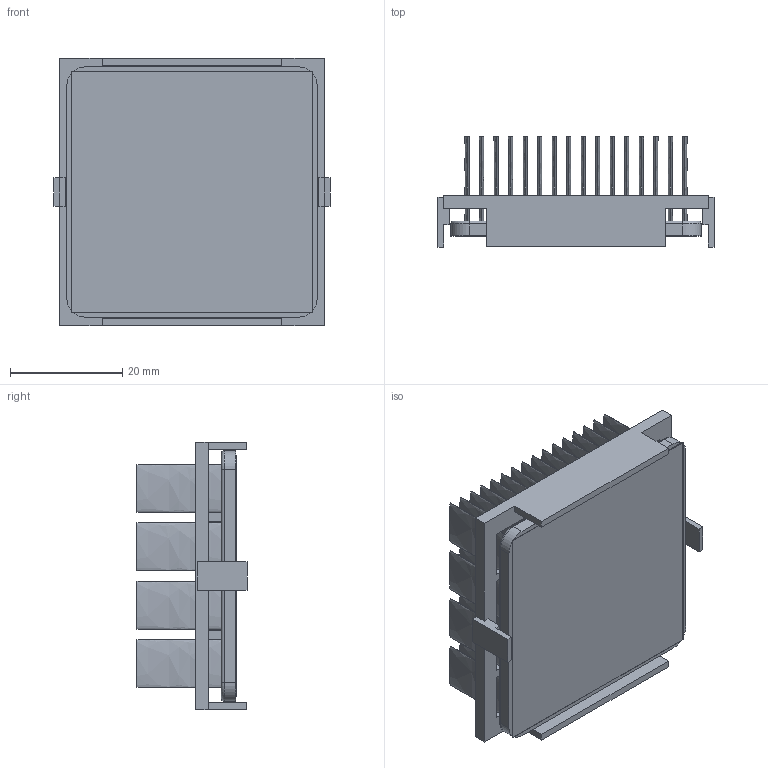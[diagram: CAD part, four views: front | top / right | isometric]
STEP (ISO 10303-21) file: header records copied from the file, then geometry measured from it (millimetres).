
FILE_DESCRIPTION (( 'STEP AP214' ), '1' );
FILE_NAME ('INM45001-18W-2.6BU.STEP', '2023-02-28T00:40:55', ( '' ), ( '' ), 'SwSTEP 2.0', 'SolidWorks 2020', '' );
FILE_SCHEMA (( 'AUTOMOTIVE_DESIGN' ));
Length unit declared in the file: inch
Products named in the file (1): INM45001-18W-2.6BU
Bounding box: 49.2 x 19.6 x 47.7 mm (x, y, z)
Volume: 12729 mm3; surface area: 27993.3 mm2
Topology: 3 solids, 3 shells, 274 faces, 604 edges, 400 vertices
Faces by surface type: plane 134, bspline 128, cylinder 8, torus 4
Entity records: 11396 total; most frequent: CARTESIAN_POINT 2943, ORIENTED_EDGE 1208, DIRECTION 662, EDGE_CURVE 604, VERTEX_POINT 400, EDGE_LOOP 340, LINE 328, VECTOR 328
